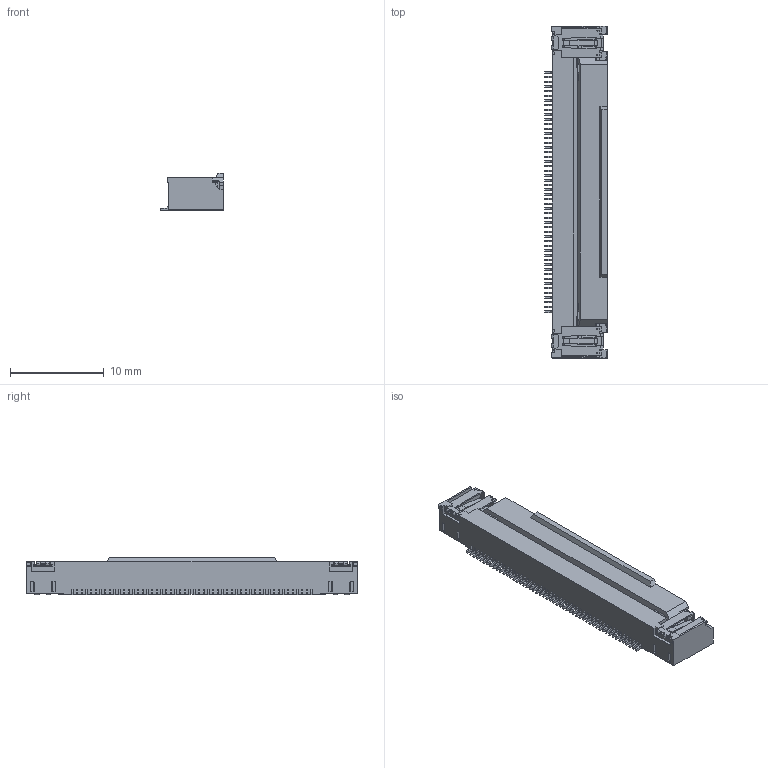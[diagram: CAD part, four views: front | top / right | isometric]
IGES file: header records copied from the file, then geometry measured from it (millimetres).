
Start section: SolidWorks IGES file using analytic representation for surfaces
Global section: file name: N:\Koyama_Utaya\★三次元モデル作成依頼\6810\001 TYPE_NEW_GND有り\006810650001.IGS; native system: SolidWorks 2021; preprocessor: SolidWorks 2021; author: SW-CPD03; date: 220615.170117; units: millimetre
Bounding box: 6.7 x 35.4 x 4.04 mm (x, y, z)
Surface area: 1499.3 mm2 (no closed solid volume)
Topology: 0 solids, 0 shells, 1325 faces, 8172 edges, 8172 vertices
Faces by surface type: bspline 991, revolution 334
